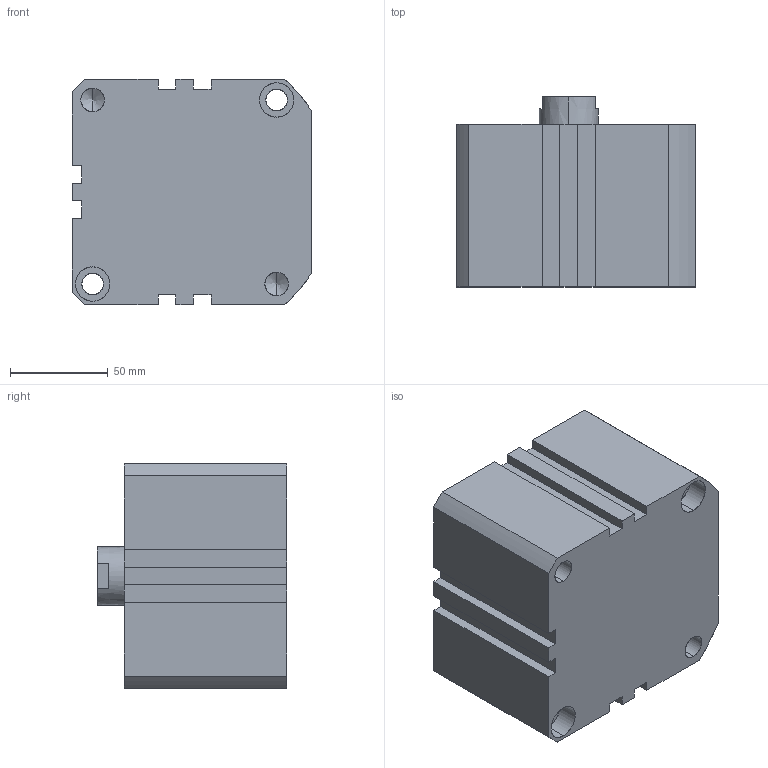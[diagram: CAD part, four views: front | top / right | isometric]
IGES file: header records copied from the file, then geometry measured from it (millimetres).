
Start section: SolidWorks IGES file using analytic representation for surfaces
Global section: file name: C:\Users\Toshiba\Desktop\XG#2-100D-10.IGS; native system: SolidWorks 2014; preprocessor: SolidWorks 2014; author: Toshiba; date: 160524.095436; units: millimetre
Bounding box: 122.5 x 97 x 115 mm (x, y, z)
Surface area: 86283 mm2 (no closed solid volume)
Topology: 0 solids, 0 shells, 111 faces, 1863 edges, 1849 vertices
Faces by surface type: revolution 65, bspline 46
